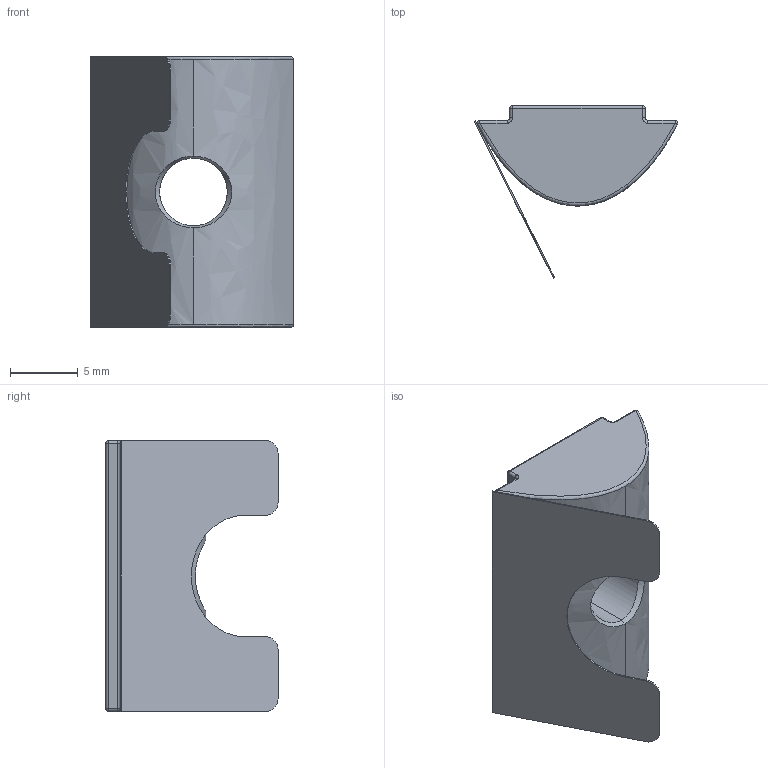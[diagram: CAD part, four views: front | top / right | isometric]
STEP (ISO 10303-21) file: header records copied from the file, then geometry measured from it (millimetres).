
FILE_DESCRIPTION (( 'STEP AP214' ), '1' );
FILE_NAME ('5544.STEP', '2024-06-25T07:38:39', ( '' ), ( '' ), 'SwSTEP 2.0', 'SolidWorks 2022', '' );
FILE_SCHEMA (( 'AUTOMOTIVE_DESIGN' ));
Length unit declared in the file: millimetre
Products named in the file (1): 5544
Bounding box: 15.06 x 12.74 x 20 mm (x, y, z)
Volume: 1400.2 mm3; surface area: 1365.9 mm2
Topology: 2 solids, 2 shells, 60 faces, 144 edges, 79 vertices
Faces by surface type: cylinder 24, plane 16, sphere 8, bspline 6, torus 4, cone 2
Entity records: 3777 total; most frequent: CARTESIAN_POINT 2265, DIRECTION 287, ORIENTED_EDGE 270, EDGE_CURVE 135, AXIS2_PLACEMENT_3D 111, VERTEX_POINT 78, VECTOR 65, LINE 65
